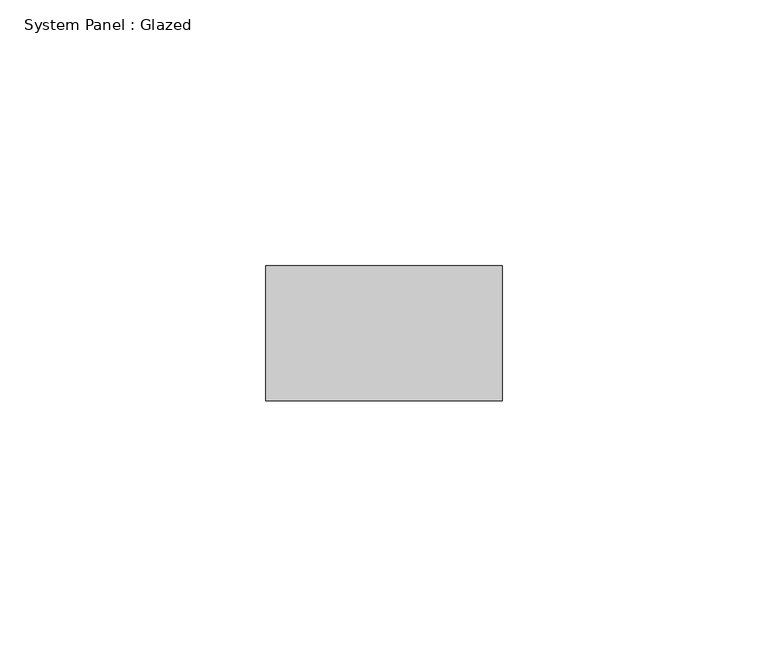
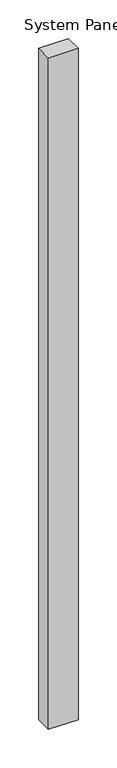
"""IFC4 building model written with IfcOpenShell, lengths in millimetres: plate geometry, System Panel : Glazed."""

from ifc_helpers import new_model, si_unit, origin, origin_with_axes, place, context, project, spatial, polyline, outline, extrude, source, transform, mapped, element, save


def system_panel_glazed_4eb414c4(model_context):
    return source(origin(), model_context, "Body", "SweptSolid", [
        extrude(outline(polyline([(22.225, 19.05), (-22.225, 19.05), (-22.225, 44.45), (22.225, 44.45), (22.225, 19.05)])), origin_with_axes(), (0.0, 0.0, 1.0), 1060.45),
    ])


if __name__ == "__main__":
    model = new_model("IFC4")
    model_context = context("Model", 3, world=origin())
    ifc_project = project(units=[si_unit("LENGTHUNIT", "METRE", prefix="MILLI")], contexts=[model_context])
    site = spatial("IfcSite", under=ifc_project)
    building = spatial("IfcBuilding", under=site)
    placement = place(None, origin())
    system_panel_glazed_shape = system_panel_glazed_4eb414c4(model_context)
    element("IfcPlate", 1, ObjectType="System Panel : Glazed", at=placement, inside=building, context=model_context, shape_type="MappedRepresentation", body=[
        mapped(system_panel_glazed_shape, transform((0.0, 0.0, 0.0), x_axis=(1.0, 0.0, 0.0), y_axis=(0.0, 1.0, 0.0), z_axis=(0.0, 0.0, 1.0))),
    ])
    save(model, "model.ifc")
